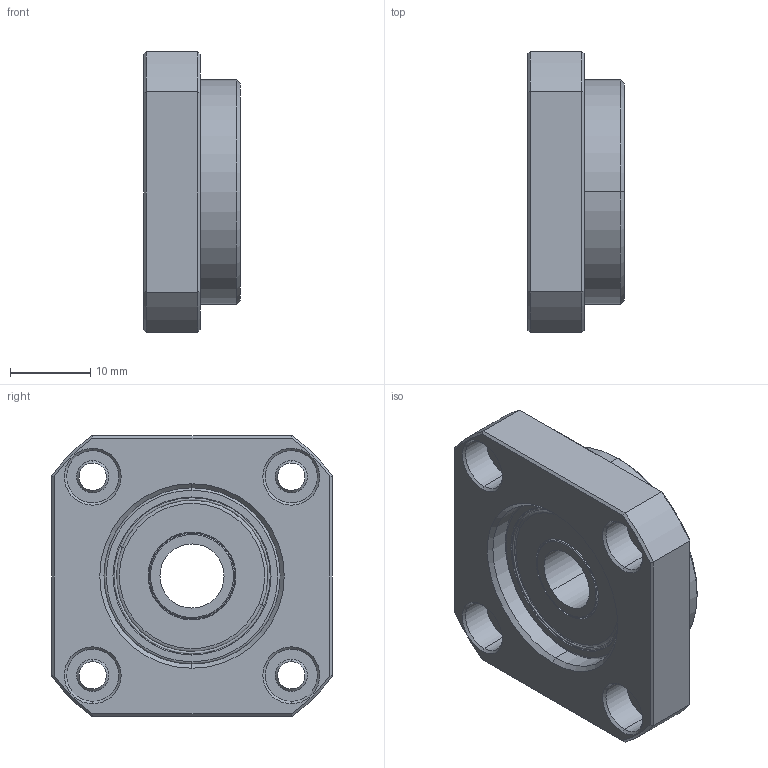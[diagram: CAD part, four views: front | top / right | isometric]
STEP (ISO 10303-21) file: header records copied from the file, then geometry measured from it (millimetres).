
FILE_DESCRIPTION (( 'STEP AP203' ), '1' );
FILE_NAME ('FF10²Õ¦X¥ó.STEP', '2017-12-27T08:47:01', ( '' ), ( '' ), 'SwSTEP 2.0', 'SolidWorks 2017', '' );
FILE_SCHEMA (( 'CONFIG_CONTROL_DESIGN' ));
Length unit declared in the file: millimetre
Products named in the file (1): FF10組合件
Bounding box: 12 x 35 x 35 mm (x, y, z)
Surface area: 5132.6 mm2 (no closed solid volume)
Topology: 0 solids, 6 shells, 123 faces, 278 edges, 170 vertices
Faces by surface type: cylinder 38, cone 30, torus 28, plane 27
Entity records: 3568 total; most frequent: DIRECTION 692, CARTESIAN_POINT 620, ORIENTED_EDGE 520, AXIS2_PLACEMENT_3D 306, EDGE_CURVE 278, CIRCLE 182, VERTEX_POINT 170, EDGE_LOOP 146
